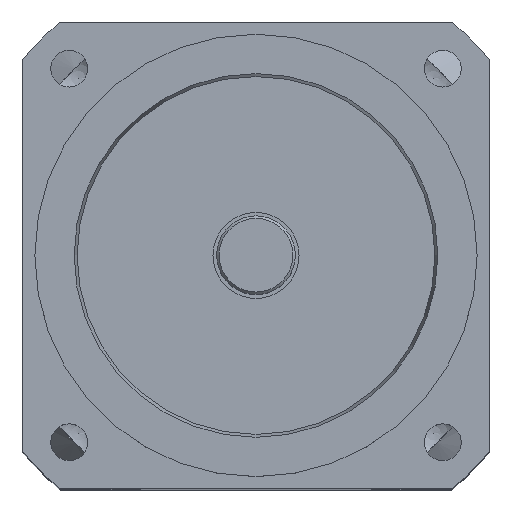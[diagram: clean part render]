
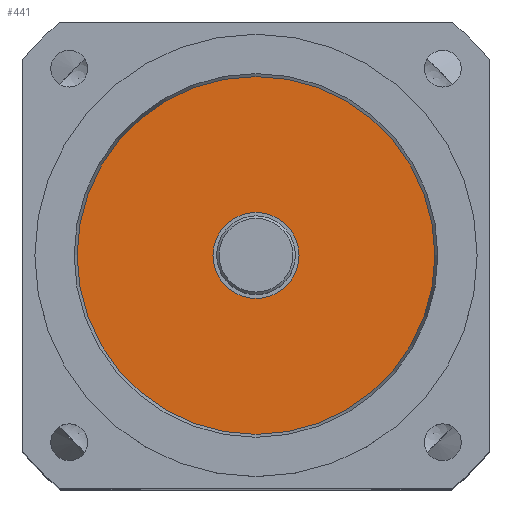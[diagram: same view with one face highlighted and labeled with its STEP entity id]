
A CAD part, top view. The second image highlights one B-rep face of the part: STEP entity #441.
In plain terms, the highlighted planar face has unit normal (0, 0, 1).
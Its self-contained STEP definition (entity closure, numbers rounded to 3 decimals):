
#179=FACE_BOUND('',#838,.T.);
#252=CIRCLE('',#2950,17.5);
#264=CIRCLE('',#2969,72.794);
#441=ADVANCED_FACE('',(#683,#179),#596,.F.);
#596=PLANE('',#2970);
#683=FACE_OUTER_BOUND('',#837,.T.);
#837=EDGE_LOOP('',(#1216));
#838=EDGE_LOOP('',(#1217));
#1216=ORIENTED_EDGE('',*,*,#2241,.T.);
#1217=ORIENTED_EDGE('',*,*,#2229,.T.);
#1930=VERTEX_POINT('',#4398);
#1942=VERTEX_POINT('',#4429);
#2229=EDGE_CURVE('',#1930,#1930,#252,.T.);
#2241=EDGE_CURVE('',#1942,#1942,#264,.T.);
#2950=AXIS2_PLACEMENT_3D('',#4397,#3434,#3435);
#2969=AXIS2_PLACEMENT_3D('',#4428,#3472,#3473);
#2970=AXIS2_PLACEMENT_3D('',#4430,#3474,#3475);
#3434=DIRECTION('',(0.,0.,-1.));
#3435=DIRECTION('',(-1.,0.,0.));
#3472=DIRECTION('',(0.,0.,1.));
#3473=DIRECTION('',(-1.,0.,0.));
#3474=DIRECTION('',(0.,0.,-1.));
#3475=DIRECTION('',(-1.,0.,0.));
#4397=CARTESIAN_POINT('',(0.,0.,310.5));
#4398=CARTESIAN_POINT('',(-17.5,0.,310.5));
#4428=CARTESIAN_POINT('',(0.,0.,310.5));
#4429=CARTESIAN_POINT('',(-72.794,0.,310.5));
#4430=CARTESIAN_POINT('',(0.,0.,310.5));
